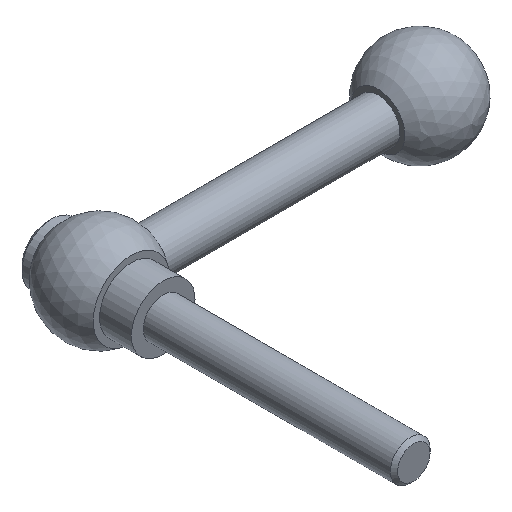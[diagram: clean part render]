
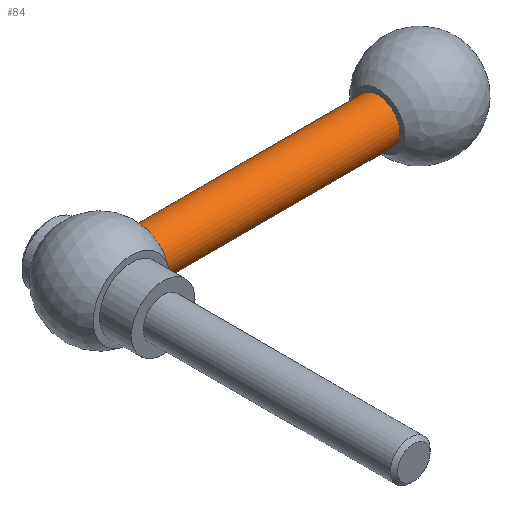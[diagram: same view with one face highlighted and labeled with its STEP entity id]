
A CAD part, isometric view. The second image highlights one B-rep face of the part: STEP entity #84.
In plain terms, the highlighted cylindrical face has radius 5.5 mm (diameter 11 mm), a full revolution.
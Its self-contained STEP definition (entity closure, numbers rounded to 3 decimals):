
#84 = ADVANCED_FACE( '', ( #116, #117 ), #118, .T. );
#116 = FACE_OUTER_BOUND( '', #154, .T. );
#117 = FACE_OUTER_BOUND( '', #155, .T. );
#118 = CYLINDRICAL_SURFACE( '', #156, 5.5 );
#154 = EDGE_LOOP( '', ( #210 ) );
#155 = EDGE_LOOP( '', ( #211 ) );
#156 = AXIS2_PLACEMENT_3D( '', #212, #213, #214 );
#210 = ORIENTED_EDGE( '', *, *, #239, .F. );
#211 = ORIENTED_EDGE( '', *, *, #236, .F. );
#212 = CARTESIAN_POINT( '', ( 93., 16., 0. ) );
#213 = DIRECTION( '', ( -1., 0., 0. ) );
#214 = DIRECTION( '', ( 0., 0., -1. ) );
#236 = EDGE_CURVE( '', #256, #256, #257, .T. );
#239 = EDGE_CURVE( '', #262, #262, #263, .T. );
#256 = VERTEX_POINT( '', #280 );
#257 = CIRCLE( '', #281, 5.5 );
#262 = VERTEX_POINT( '', #286 );
#263 = CIRCLE( '', #287, 5.5 );
#280 = CARTESIAN_POINT( '', ( 11.225, 16., 5.5 ) );
#281 = AXIS2_PLACEMENT_3D( '', #311, #312, #313 );
#286 = CARTESIAN_POINT( '', ( 70., 16., -5.5 ) );
#287 = AXIS2_PLACEMENT_3D( '', #320, #321, #322 );
#311 = CARTESIAN_POINT( '', ( 11.225, 16., 0. ) );
#312 = DIRECTION( '', ( -1., 0., 0. ) );
#313 = DIRECTION( '', ( 0., 0., 1. ) );
#320 = CARTESIAN_POINT( '', ( 70., 16., 0. ) );
#321 = DIRECTION( '', ( 1., 0., 0. ) );
#322 = DIRECTION( '', ( 0., 0., -1. ) );
